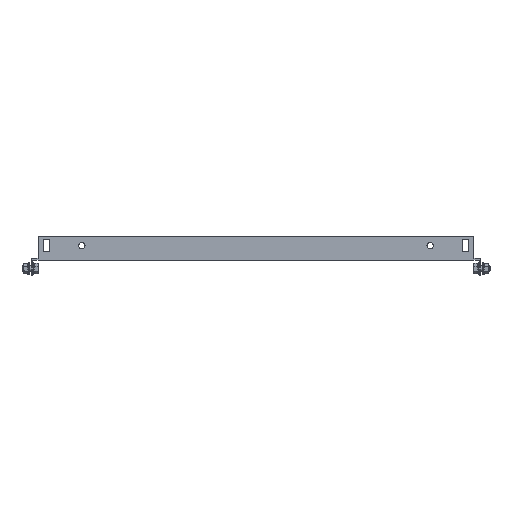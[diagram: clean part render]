
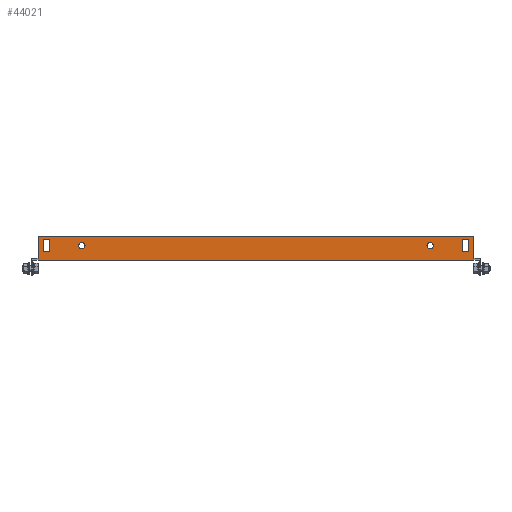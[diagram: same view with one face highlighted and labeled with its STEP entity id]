
A CAD part, front view. The second image highlights one B-rep face of the part: STEP entity #44021.
In plain terms, the highlighted planar face has unit normal (0, -1, 0).
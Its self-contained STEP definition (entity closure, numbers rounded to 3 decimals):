
#37986 = VERTEX_POINT('',#37987);
#37987 = CARTESIAN_POINT('',(242.,-184.5,0.));
#37993 = EDGE_CURVE('',#37994,#37986,#37996,.T.);
#37994 = VERTEX_POINT('',#37995);
#37995 = CARTESIAN_POINT('',(-242.,-184.5,0.));
#37996 = LINE('',#37997,#37998);
#37997 = CARTESIAN_POINT('',(-242.,-184.5,0.));
#37998 = VECTOR('',#37999,1.);
#37999 = DIRECTION('',(1.,-0.,-0.));
#43900 = VERTEX_POINT('',#43901);
#43901 = CARTESIAN_POINT('',(-242.,-184.5,2.6));
#43916 = EDGE_CURVE('',#43900,#37994,#43917,.T.);
#43917 = LINE('',#43918,#43919);
#43918 = CARTESIAN_POINT('',(-242.,-184.5,2.6));
#43919 = VECTOR('',#43920,1.);
#43920 = DIRECTION('',(0.,0.,-1.));
#43940 = VERTEX_POINT('',#43941);
#43941 = CARTESIAN_POINT('',(242.,-184.5,2.6));
#43947 = EDGE_CURVE('',#43940,#37986,#43948,.T.);
#43948 = LINE('',#43949,#43950);
#43949 = CARTESIAN_POINT('',(242.,-184.5,2.));
#43950 = VECTOR('',#43951,1.);
#43951 = DIRECTION('',(-0.,0.,-1.));
#43973 = VERTEX_POINT('',#43974);
#43974 = CARTESIAN_POINT('',(242.,-184.5,26.));
#43980 = EDGE_CURVE('',#43940,#43973,#43981,.T.);
#43981 = LINE('',#43982,#43983);
#43982 = CARTESIAN_POINT('',(242.,-184.5,26.));
#43983 = VECTOR('',#43984,1.);
#43984 = DIRECTION('',(-0.,0.,1.));
#43995 = EDGE_CURVE('',#43996,#43900,#43998,.T.);
#43996 = VERTEX_POINT('',#43997);
#43997 = CARTESIAN_POINT('',(-242.,-184.5,26.));
#43998 = LINE('',#43999,#44000);
#43999 = CARTESIAN_POINT('',(-242.,-184.5,2.));
#44000 = VECTOR('',#44001,1.);
#44001 = DIRECTION('',(-0.,0.,-1.));
#44021 = ADVANCED_FACE('',(#44022,#44056,#44067,#44078,#44112),#44125,
  .F.);
#44022 = FACE_BOUND('',#44023,.T.);
#44023 = EDGE_LOOP('',(#44024,#44034,#44042,#44050));
#44024 = ORIENTED_EDGE('',*,*,#44025,.F.);
#44025 = EDGE_CURVE('',#44026,#44028,#44030,.T.);
#44026 = VERTEX_POINT('',#44027);
#44027 = CARTESIAN_POINT('',(236.5,-184.5,9.));
#44028 = VERTEX_POINT('',#44029);
#44029 = CARTESIAN_POINT('',(236.5,-184.5,23.));
#44030 = LINE('',#44031,#44032);
#44031 = CARTESIAN_POINT('',(236.5,-184.5,23.));
#44032 = VECTOR('',#44033,1.);
#44033 = DIRECTION('',(-0.,0.,1.));
#44034 = ORIENTED_EDGE('',*,*,#44035,.F.);
#44035 = EDGE_CURVE('',#44036,#44026,#44038,.T.);
#44036 = VERTEX_POINT('',#44037);
#44037 = CARTESIAN_POINT('',(229.5,-184.5,9.));
#44038 = LINE('',#44039,#44040);
#44039 = CARTESIAN_POINT('',(236.5,-184.5,9.));
#44040 = VECTOR('',#44041,1.);
#44041 = DIRECTION('',(1.,-0.,-0.));
#44042 = ORIENTED_EDGE('',*,*,#44043,.F.);
#44043 = EDGE_CURVE('',#44044,#44036,#44046,.T.);
#44044 = VERTEX_POINT('',#44045);
#44045 = CARTESIAN_POINT('',(229.5,-184.5,23.));
#44046 = LINE('',#44047,#44048);
#44047 = CARTESIAN_POINT('',(229.5,-184.5,9.));
#44048 = VECTOR('',#44049,1.);
#44049 = DIRECTION('',(0.,0.,-1.));
#44050 = ORIENTED_EDGE('',*,*,#44051,.F.);
#44051 = EDGE_CURVE('',#44028,#44044,#44052,.T.);
#44052 = LINE('',#44053,#44054);
#44053 = CARTESIAN_POINT('',(229.5,-184.5,23.));
#44054 = VECTOR('',#44055,1.);
#44055 = DIRECTION('',(-1.,-0.,-0.));
#44056 = FACE_BOUND('',#44057,.T.);
#44057 = EDGE_LOOP('',(#44058));
#44058 = ORIENTED_EDGE('',*,*,#44059,.F.);
#44059 = EDGE_CURVE('',#44060,#44060,#44062,.T.);
#44060 = VERTEX_POINT('',#44061);
#44061 = CARTESIAN_POINT('',(193.5,-184.5,19.5));
#44062 = CIRCLE('',#44063,3.5);
#44063 = AXIS2_PLACEMENT_3D('',#44064,#44065,#44066);
#44064 = CARTESIAN_POINT('',(193.5,-184.5,16.));
#44065 = DIRECTION('',(0.,-1.,0.));
#44066 = DIRECTION('',(0.,0.,1.));
#44067 = FACE_BOUND('',#44068,.T.);
#44068 = EDGE_LOOP('',(#44069));
#44069 = ORIENTED_EDGE('',*,*,#44070,.F.);
#44070 = EDGE_CURVE('',#44071,#44071,#44073,.T.);
#44071 = VERTEX_POINT('',#44072);
#44072 = CARTESIAN_POINT('',(-193.5,-184.5,12.5));
#44073 = CIRCLE('',#44074,3.5);
#44074 = AXIS2_PLACEMENT_3D('',#44075,#44076,#44077);
#44075 = CARTESIAN_POINT('',(-193.5,-184.5,16.));
#44076 = DIRECTION('',(0.,-1.,0.));
#44077 = DIRECTION('',(0.,0.,-1.));
#44078 = FACE_BOUND('',#44079,.T.);
#44079 = EDGE_LOOP('',(#44080,#44090,#44098,#44106));
#44080 = ORIENTED_EDGE('',*,*,#44081,.F.);
#44081 = EDGE_CURVE('',#44082,#44084,#44086,.T.);
#44082 = VERTEX_POINT('',#44083);
#44083 = CARTESIAN_POINT('',(-236.5,-184.5,23.));
#44084 = VERTEX_POINT('',#44085);
#44085 = CARTESIAN_POINT('',(-236.5,-184.5,9.));
#44086 = LINE('',#44087,#44088);
#44087 = CARTESIAN_POINT('',(-236.5,-184.5,9.));
#44088 = VECTOR('',#44089,1.);
#44089 = DIRECTION('',(-0.,0.,-1.));
#44090 = ORIENTED_EDGE('',*,*,#44091,.F.);
#44091 = EDGE_CURVE('',#44092,#44082,#44094,.T.);
#44092 = VERTEX_POINT('',#44093);
#44093 = CARTESIAN_POINT('',(-229.5,-184.5,23.));
#44094 = LINE('',#44095,#44096);
#44095 = CARTESIAN_POINT('',(-236.5,-184.5,23.));
#44096 = VECTOR('',#44097,1.);
#44097 = DIRECTION('',(-1.,-0.,-0.));
#44098 = ORIENTED_EDGE('',*,*,#44099,.F.);
#44099 = EDGE_CURVE('',#44100,#44092,#44102,.T.);
#44100 = VERTEX_POINT('',#44101);
#44101 = CARTESIAN_POINT('',(-229.5,-184.5,9.));
#44102 = LINE('',#44103,#44104);
#44103 = CARTESIAN_POINT('',(-229.5,-184.5,23.));
#44104 = VECTOR('',#44105,1.);
#44105 = DIRECTION('',(-0.,0.,1.));
#44106 = ORIENTED_EDGE('',*,*,#44107,.F.);
#44107 = EDGE_CURVE('',#44084,#44100,#44108,.T.);
#44108 = LINE('',#44109,#44110);
#44109 = CARTESIAN_POINT('',(-229.5,-184.5,9.));
#44110 = VECTOR('',#44111,1.);
#44111 = DIRECTION('',(1.,-0.,-0.));
#44112 = FACE_BOUND('',#44113,.T.);
#44113 = EDGE_LOOP('',(#44114,#44115,#44116,#44117,#44118,#44119));
#44114 = ORIENTED_EDGE('',*,*,#43995,.T.);
#44115 = ORIENTED_EDGE('',*,*,#43916,.T.);
#44116 = ORIENTED_EDGE('',*,*,#37993,.T.);
#44117 = ORIENTED_EDGE('',*,*,#43947,.F.);
#44118 = ORIENTED_EDGE('',*,*,#43980,.T.);
#44119 = ORIENTED_EDGE('',*,*,#44120,.T.);
#44120 = EDGE_CURVE('',#43973,#43996,#44121,.T.);
#44121 = LINE('',#44122,#44123);
#44122 = CARTESIAN_POINT('',(-242.,-184.5,26.));
#44123 = VECTOR('',#44124,1.);
#44124 = DIRECTION('',(-1.,-0.,-0.));
#44125 = PLANE('',#44126);
#44126 = AXIS2_PLACEMENT_3D('',#44127,#44128,#44129);
#44127 = CARTESIAN_POINT('',(242.,-184.5,2.));
#44128 = DIRECTION('',(-0.,1.,0.));
#44129 = DIRECTION('',(0.,0.,1.));
